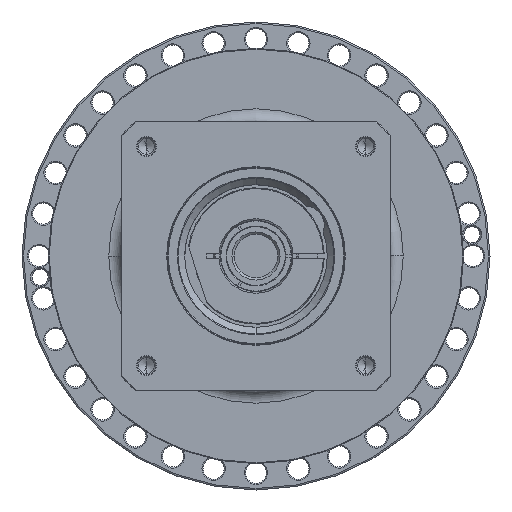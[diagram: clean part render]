
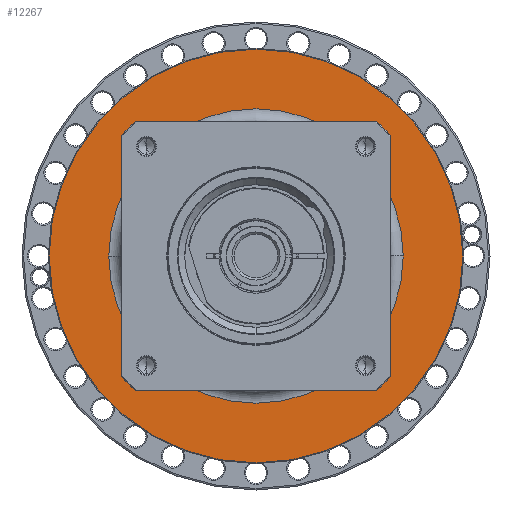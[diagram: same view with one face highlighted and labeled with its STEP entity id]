
A CAD part, left-side view. The second image highlights one B-rep face of the part: STEP entity #12267.
In plain terms, the highlighted planar face has unit normal (-1, 0, 0) as drawn and (1, 0, 0) by its records, which use the part's own axes.
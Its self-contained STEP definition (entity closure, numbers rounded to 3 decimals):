
#11746=CARTESIAN_POINT('',(-10.,0.,0.));
#11747=DIRECTION('',(-1.,0.,0.));
#11748=DIRECTION('',(0.,-1.,0.));
#11749=AXIS2_PLACEMENT_3D('',#11746,#11747,#11748);
#11751=CARTESIAN_POINT('',(-10.,0.,0.));
#11752=DIRECTION('',(-1.,0.,0.));
#11753=DIRECTION('',(0.,1.,0.));
#11754=AXIS2_PLACEMENT_3D('',#11751,#11752,#11753);
#11756=CARTESIAN_POINT('',(-10.,0.,0.));
#11757=DIRECTION('',(-1.,0.,0.));
#11758=DIRECTION('',(0.,-1.,0.));
#11759=AXIS2_PLACEMENT_3D('',#11756,#11757,#11758);
#11761=CARTESIAN_POINT('',(-10.,0.,0.));
#11762=DIRECTION('',(-1.,0.,0.));
#11763=DIRECTION('',(0.,1.,0.));
#11764=AXIS2_PLACEMENT_3D('',#11761,#11762,#11763);
#11830=CARTESIAN_POINT('',(-10.,-133.5,0.));
#11831=CARTESIAN_POINT('',(-10.,133.5,0.));
#11832=VERTEX_POINT('',#11830);
#11833=VERTEX_POINT('',#11831);
#11854=CARTESIAN_POINT('',(-10.,-95.,0.));
#11855=CARTESIAN_POINT('',(-10.,95.,0.));
#11856=VERTEX_POINT('',#11854);
#11857=VERTEX_POINT('',#11855);
#12252=CARTESIAN_POINT('',(-10.,0.,0.));
#12253=DIRECTION('',(1.,0.,0.));
#12254=DIRECTION('',(0.,-1.,0.));
#12255=AXIS2_PLACEMENT_3D('',#12252,#12253,#12254);
#12256=PLANE('',#12255);
#12257=ORIENTED_EDGE('',*,*,#12193,.T.);
#12258=ORIENTED_EDGE('',*,*,#12208,.T.);
#12259=EDGE_LOOP('',(#12257,#12258));
#12260=FACE_OUTER_BOUND('',#12259,.F.);
#12262=ORIENTED_EDGE('',*,*,#12261,.F.);
#12264=ORIENTED_EDGE('',*,*,#12263,.F.);
#12265=EDGE_LOOP('',(#12262,#12264));
#12266=FACE_BOUND('',#12265,.F.);
#12267=ADVANCED_FACE('',(#12260,#12266),#12256,.T.);
#11750=CIRCLE('',#11749,95.);
#11755=CIRCLE('',#11754,95.);
#11760=CIRCLE('',#11759,133.5);
#11765=CIRCLE('',#11764,133.5);
#12193=EDGE_CURVE('',#11832,#11833,#11760,.T.);
#12208=EDGE_CURVE('',#11833,#11832,#11765,.T.);
#12261=EDGE_CURVE('',#11856,#11857,#11750,.T.);
#12263=EDGE_CURVE('',#11857,#11856,#11755,.T.);
